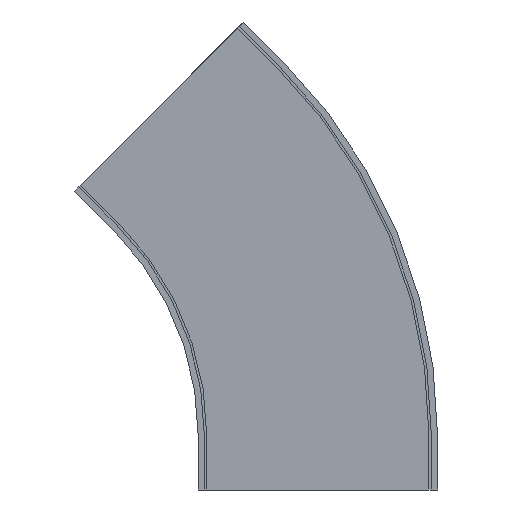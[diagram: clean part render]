
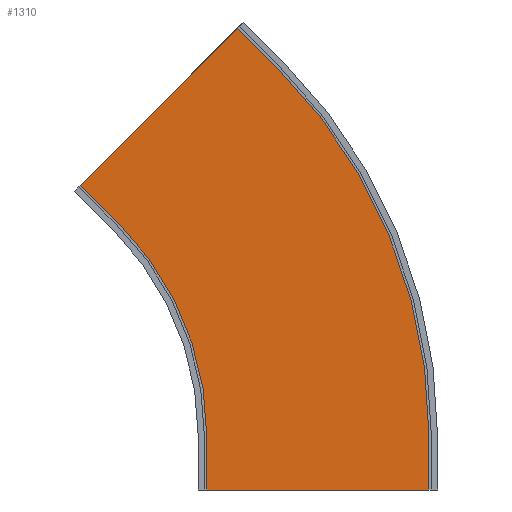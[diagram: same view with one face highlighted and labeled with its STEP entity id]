
A CAD part, front view. The second image highlights one B-rep face of the part: STEP entity #1310.
In plain terms, the highlighted planar face has unit normal (0, -1, 0).
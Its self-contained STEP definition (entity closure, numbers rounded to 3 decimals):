
#52 = ORIENTED_EDGE ( 'NONE', *, *, #771, .T. ) ;
#71 = LINE ( 'NONE', #1065, #2025 ) ;
#110 = VERTEX_POINT ( 'NONE', #1626 ) ;
#206 = ORIENTED_EDGE ( 'NONE', *, *, #1045, .F. ) ;
#257 = EDGE_CURVE ( 'NONE', #1453, #667, #1766, .T. ) ;
#258 = PLANE ( 'NONE',  #581 ) ;
#275 = CARTESIAN_POINT ( 'NONE',  ( 169.387, -68.25, 243.634 ) ) ;
#294 = CARTESIAN_POINT ( 'NONE',  ( 292.05, -68.25, -52.5 ) ) ;
#443 = LINE ( 'NONE', #882, #2400 ) ;
#461 = DIRECTION ( 'NONE',  ( 0.707, 0., -0.707 ) ) ;
#469 = DIRECTION ( 'NONE',  ( 0., 0., 1. ) ) ;
#491 = DIRECTION ( 'NONE',  ( 0.707, 0., -0.707 ) ) ;
#510 = CARTESIAN_POINT ( 'NONE',  ( 292.05, -68.25, -52.5 ) ) ;
#545 = CIRCLE ( 'NONE', #2289, 507.95 ) ;
#547 = VERTEX_POINT ( 'NONE', #1134 ) ;
#581 = AXIS2_PLACEMENT_3D ( 'NONE', #624, #1781, #2177 ) ;
#589 = DIRECTION ( 'NONE',  ( 0., 0., 1. ) ) ;
#624 = CARTESIAN_POINT ( 'NONE',  ( 206.511, -68.25, 206.511 ) ) ;
#630 = FACE_OUTER_BOUND ( 'NONE', #1365, .T. ) ;
#654 = DIRECTION ( 'NONE',  ( -1., 0., 0. ) ) ;
#667 = VERTEX_POINT ( 'NONE', #1176 ) ;
#727 = VECTOR ( 'NONE', #469, 1000. ) ;
#771 = EDGE_CURVE ( 'NONE', #1329, #1333, #1789, .T. ) ;
#789 = DIRECTION ( 'NONE',  ( -1., 0., 0. ) ) ;
#846 = CARTESIAN_POINT ( 'NONE',  ( 507.95, -68.25, 0. ) ) ;
#881 = VECTOR ( 'NONE', #461, 1000. ) ;
#882 = CARTESIAN_POINT ( 'NONE',  ( 0., -68.25, -52.5 ) ) ;
#994 = AXIS2_PLACEMENT_3D ( 'NONE', #2381, #1231, #789 ) ;
#1045 = EDGE_CURVE ( 'NONE', #1329, #2364, #2375, .T. ) ;
#1060 = ORIENTED_EDGE ( 'NONE', *, *, #2181, .F. ) ;
#1065 = CARTESIAN_POINT ( 'NONE',  ( 322.052, -68.25, 396.298 ) ) ;
#1074 = CARTESIAN_POINT ( 'NONE',  ( 0., -68.25, 0. ) ) ;
#1124 = CARTESIAN_POINT ( 'NONE',  ( -37.123, -68.25, 37.123 ) ) ;
#1134 = CARTESIAN_POINT ( 'NONE',  ( 359.175, -68.25, 359.175 ) ) ;
#1176 = CARTESIAN_POINT ( 'NONE',  ( 292.05, -68.25, 0. ) ) ;
#1199 = CARTESIAN_POINT ( 'NONE',  ( 169.387, -68.25, 243.634 ) ) ;
#1202 = VECTOR ( 'NONE', #589, 1000. ) ;
#1231 = DIRECTION ( 'NONE',  ( 0., 1., 0. ) ) ;
#1262 = LINE ( 'NONE', #1374, #1202 ) ;
#1271 = ORIENTED_EDGE ( 'NONE', *, *, #2227, .F. ) ;
#1310 = ADVANCED_FACE ( 'NONE', ( #630 ), #258, .F. ) ;
#1329 = VERTEX_POINT ( 'NONE', #1199 ) ;
#1332 = EDGE_CURVE ( 'NONE', #110, #1453, #443, .T. ) ;
#1333 = VERTEX_POINT ( 'NONE', #2401 ) ;
#1365 = EDGE_LOOP ( 'NONE', ( #2087, #1636, #2240, #1752, #1060, #1271, #206, #52 ) ) ;
#1374 = CARTESIAN_POINT ( 'NONE',  ( 507.95, -68.25, -52.5 ) ) ;
#1453 = VERTEX_POINT ( 'NONE', #510 ) ;
#1626 = CARTESIAN_POINT ( 'NONE',  ( 507.95, -68.25, -52.5 ) ) ;
#1628 = EDGE_CURVE ( 'NONE', #110, #2414, #1262, .T. ) ;
#1629 = CARTESIAN_POINT ( 'NONE',  ( 322.052, -68.25, 396.298 ) ) ;
#1636 = ORIENTED_EDGE ( 'NONE', *, *, #257, .F. ) ;
#1727 = VECTOR ( 'NONE', #2446, 1000. ) ;
#1752 = ORIENTED_EDGE ( 'NONE', *, *, #1628, .T. ) ;
#1766 = LINE ( 'NONE', #294, #727 ) ;
#1781 = DIRECTION ( 'NONE',  ( 0., 1., 0. ) ) ;
#1789 = LINE ( 'NONE', #275, #881 ) ;
#2016 = EDGE_CURVE ( 'NONE', #1333, #667, #2292, .T. ) ;
#2025 = VECTOR ( 'NONE', #491, 1000. ) ;
#2087 = ORIENTED_EDGE ( 'NONE', *, *, #2016, .T. ) ;
#2177 = DIRECTION ( 'NONE',  ( -1., 0., 0. ) ) ;
#2181 = EDGE_CURVE ( 'NONE', #547, #2414, #545, .T. ) ;
#2227 = EDGE_CURVE ( 'NONE', #2364, #547, #71, .T. ) ;
#2240 = ORIENTED_EDGE ( 'NONE', *, *, #1332, .F. ) ;
#2289 = AXIS2_PLACEMENT_3D ( 'NONE', #1074, #2397, #2415 ) ;
#2292 = CIRCLE ( 'NONE', #994, 292.05 ) ;
#2364 = VERTEX_POINT ( 'NONE', #1629 ) ;
#2375 = LINE ( 'NONE', #1124, #1727 ) ;
#2381 = CARTESIAN_POINT ( 'NONE',  ( 0., -68.25, 0. ) ) ;
#2397 = DIRECTION ( 'NONE',  ( 0., 1., 0. ) ) ;
#2400 = VECTOR ( 'NONE', #654, 1000. ) ;
#2401 = CARTESIAN_POINT ( 'NONE',  ( 206.511, -68.25, 206.511 ) ) ;
#2414 = VERTEX_POINT ( 'NONE', #846 ) ;
#2415 = DIRECTION ( 'NONE',  ( -1., 0., 0. ) ) ;
#2446 = DIRECTION ( 'NONE',  ( 0.707, 0., 0.707 ) ) ;
